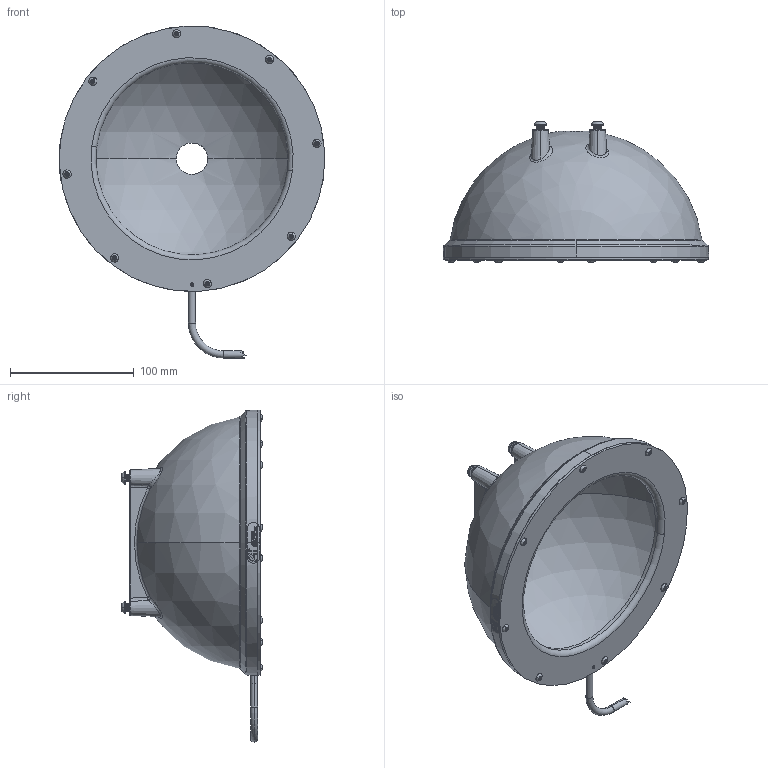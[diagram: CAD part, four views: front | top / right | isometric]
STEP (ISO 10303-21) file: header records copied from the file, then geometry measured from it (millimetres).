
FILE_DESCRIPTION (( 'STEP AP214' ), '1' );
FILE_NAME ('DL097_Default.stp', '2021-05-17T18:38:36', ( '' ), ( '' ), 'SwSTEP 2.0', 'SolidWorks 2018', '' );
FILE_SCHEMA (( 'AUTOMOTIVE_DESIGN' ));
Length unit declared in the file: inch
Products named in the file (8): BH-632X1_4_91255A146; 092408_TRUNCATED; 013-01-002_Machined; 92505A065_92505A065; DL097_Default; BH-M6X10_91255A146; 091052 DL097_Default<As Machined>; 091159
Assembly tree (17 placements, depth 2):
  DL097_Default
    013-01-002_Machined
    091159
    92505A065_92505A065
    BH-632X1_4_91255A146  x8
    091052 DL097_Default<As Machined>
    BH-M6X10_91255A146  x4
    092408_TRUNCATED
Bounding box: 214.34 x 113.51 x 267.97 mm (x, y, z)
Volume: 396580.4 mm3; surface area: 185054.9 mm2
Topology: 24 solids, 24 shells, 1905 faces, 4174 edges, 2348 vertices
Faces by surface type: cone 705, cylinder 617, plane 358, bspline 133, torus 70, sphere 22
Entity records: 37702 total; most frequent: CARTESIAN_POINT 15308, ORIENTED_EDGE 3652, DIRECTION 3186, EDGE_CURVE 1826, AXIS2_PLACEMENT_3D 1248, VERTEX_POINT 1108, EDGE_LOOP 856, ADVANCED_FACE 789
